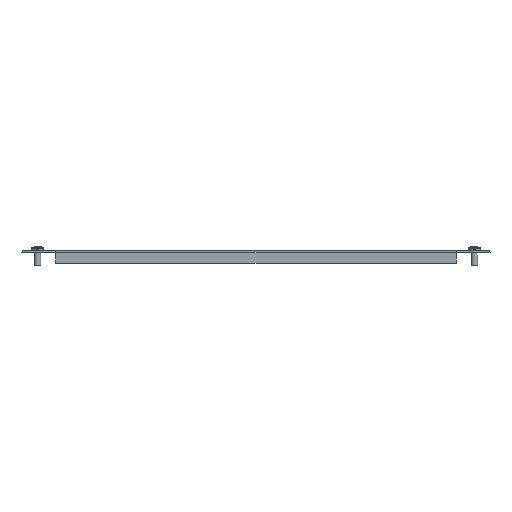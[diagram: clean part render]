
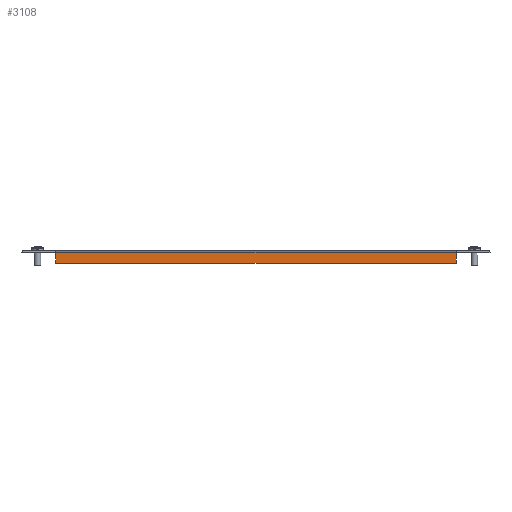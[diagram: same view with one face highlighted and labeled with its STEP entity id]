
A CAD part, front view. The second image highlights one B-rep face of the part: STEP entity #3108.
In plain terms, the highlighted planar face has unit normal (0, -1, 0).
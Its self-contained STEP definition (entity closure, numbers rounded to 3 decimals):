
#76 = EDGE_LOOP ( 'NONE', ( #2062, #3504, #5317, #6230, #3583, #3244 ) ) ;
#138 = VERTEX_POINT ( 'NONE', #796 ) ;
#265 = LINE ( 'NONE', #2895, #4623 ) ;
#322 = EDGE_CURVE ( 'NONE', #138, #4249, #1665, .T. ) ;
#462 = VERTEX_POINT ( 'NONE', #3363 ) ;
#542 = CARTESIAN_POINT ( 'NONE',  ( 0., -835., 0. ) ) ;
#554 = VERTEX_POINT ( 'NONE', #3968 ) ;
#756 = CARTESIAN_POINT ( 'NONE',  ( 160.5, -835., 0. ) ) ;
#777 = DIRECTION ( 'NONE',  ( 0., 0., 1. ) ) ;
#796 = CARTESIAN_POINT ( 'NONE',  ( -160.5, -835., -10. ) ) ;
#893 = VERTEX_POINT ( 'NONE', #756 ) ;
#1094 = DIRECTION ( 'NONE',  ( 0., -1., 0. ) ) ;
#1123 = VECTOR ( 'NONE', #5739, 1000. ) ;
#1162 = VECTOR ( 'NONE', #5219, 1000. ) ;
#1185 = VERTEX_POINT ( 'NONE', #5393 ) ;
#1318 = EDGE_CURVE ( 'NONE', #1185, #893, #265, .T. ) ;
#1618 = VECTOR ( 'NONE', #777, 1000. ) ;
#1665 = LINE ( 'NONE', #4599, #1123 ) ;
#2014 = DIRECTION ( 'NONE',  ( 0., 0., -1. ) ) ;
#2062 = ORIENTED_EDGE ( 'NONE', *, *, #5136, .F. ) ;
#2084 = CARTESIAN_POINT ( 'NONE',  ( 160.5, -835., -10. ) ) ;
#2175 = VECTOR ( 'NONE', #5623, 1000. ) ;
#2265 = CARTESIAN_POINT ( 'NONE',  ( -160.5, -835., 0. ) ) ;
#2272 = FACE_OUTER_BOUND ( 'NONE', #76, .T. ) ;
#2895 = CARTESIAN_POINT ( 'NONE',  ( 160.5, -835., -2.4 ) ) ;
#3060 = CARTESIAN_POINT ( 'NONE',  ( -160.5, -835., -2.4 ) ) ;
#3108 = ADVANCED_FACE ( 'NONE', ( #2272 ), #4347, .T. ) ;
#3244 = ORIENTED_EDGE ( 'NONE', *, *, #6434, .F. ) ;
#3363 = CARTESIAN_POINT ( 'NONE',  ( -160.5, -835., 0. ) ) ;
#3504 = ORIENTED_EDGE ( 'NONE', *, *, #1318, .T. ) ;
#3583 = ORIENTED_EDGE ( 'NONE', *, *, #322, .F. ) ;
#3755 = DIRECTION ( 'NONE',  ( 0., 0., -1. ) ) ;
#3968 = CARTESIAN_POINT ( 'NONE',  ( 160.5, -835., -10. ) ) ;
#4249 = VERTEX_POINT ( 'NONE', #3060 ) ;
#4347 = PLANE ( 'NONE',  #4417 ) ;
#4417 = AXIS2_PLACEMENT_3D ( 'NONE', #6286, #1094, #3755 ) ;
#4595 = LINE ( 'NONE', #2084, #4751 ) ;
#4599 = CARTESIAN_POINT ( 'NONE',  ( -160.5, -835., -1.8 ) ) ;
#4623 = VECTOR ( 'NONE', #4952, 1000. ) ;
#4751 = VECTOR ( 'NONE', #2014, 1000. ) ;
#4952 = DIRECTION ( 'NONE',  ( 0., 0., 1. ) ) ;
#5136 = EDGE_CURVE ( 'NONE', #1185, #554, #4595, .T. ) ;
#5211 = EDGE_CURVE ( 'NONE', #893, #462, #6163, .T. ) ;
#5219 = DIRECTION ( 'NONE',  ( -1., 0., 0. ) ) ;
#5317 = ORIENTED_EDGE ( 'NONE', *, *, #5211, .T. ) ;
#5393 = CARTESIAN_POINT ( 'NONE',  ( 160.5, -835., -2.4 ) ) ;
#5584 = LINE ( 'NONE', #6117, #2175 ) ;
#5623 = DIRECTION ( 'NONE',  ( -1., 0., 0. ) ) ;
#5739 = DIRECTION ( 'NONE',  ( 0., 0., 1. ) ) ;
#6108 = EDGE_CURVE ( 'NONE', #4249, #462, #6344, .T. ) ;
#6117 = CARTESIAN_POINT ( 'NONE',  ( -160.5, -835., -10. ) ) ;
#6163 = LINE ( 'NONE', #542, #1162 ) ;
#6230 = ORIENTED_EDGE ( 'NONE', *, *, #6108, .F. ) ;
#6286 = CARTESIAN_POINT ( 'NONE',  ( 0., -835., 0. ) ) ;
#6344 = LINE ( 'NONE', #2265, #1618 ) ;
#6434 = EDGE_CURVE ( 'NONE', #554, #138, #5584, .T. ) ;
